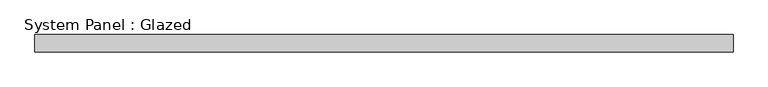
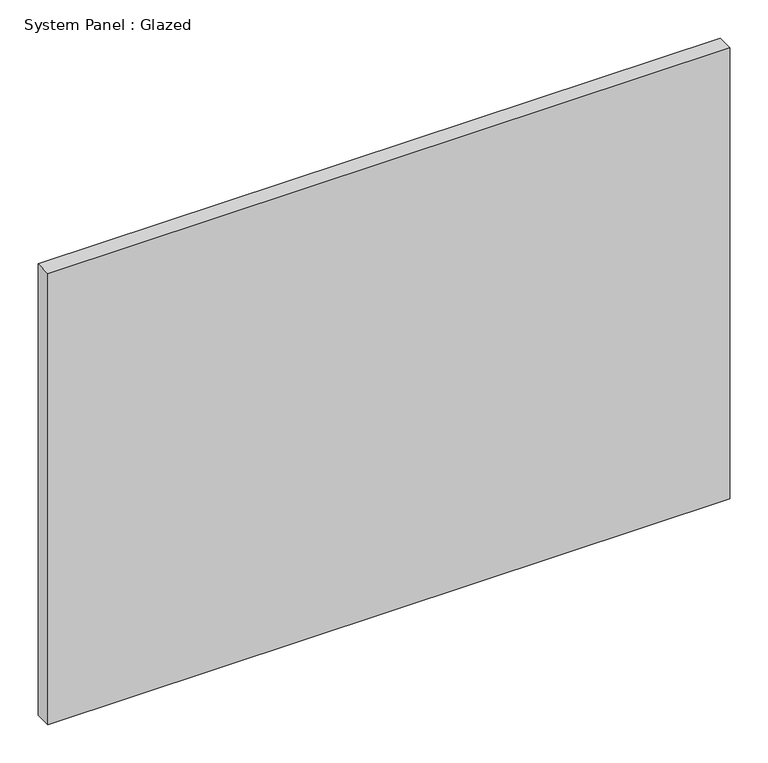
"""IFC4 building model written with IfcOpenShell, lengths in millimetres: plate geometry, System Panel : Glazed."""

from ifc_helpers import new_model, si_unit, origin, origin_with_axes, place, context, project, spatial, polyline, outline, extrude, source, transform, mapped, element, save


def system_panel_glazed_76777b0d(model_context):
    return source(origin(), model_context, "Body", "SweptSolid", [
        extrude(outline(polyline([(516.255, -44.45), (-516.255, -44.45), (-516.255, -19.05), (516.255, -19.05), (516.255, -44.45)])), origin_with_axes(), (0.0, 0.0, 1.0), 721.8891834),
    ])


if __name__ == "__main__":
    model = new_model("IFC4")
    model_context = context("Model", 3, world=origin())
    ifc_project = project(units=[si_unit("LENGTHUNIT", "METRE", prefix="MILLI")], contexts=[model_context])
    site = spatial("IfcSite", under=ifc_project)
    building = spatial("IfcBuilding", under=site)
    placement = place(None, origin())
    system_panel_glazed_shape = system_panel_glazed_76777b0d(model_context)
    element("IfcPlate", 1, ObjectType="System Panel : Glazed", at=placement, inside=building, context=model_context, shape_type="MappedRepresentation", body=[
        mapped(system_panel_glazed_shape, transform((0.0, 0.0, 0.0), x_axis=(1.0, 0.0, 0.0), y_axis=(0.0, 1.0, 0.0), z_axis=(0.0, 0.0, 1.0))),
    ])
    save(model, "model.ifc")
